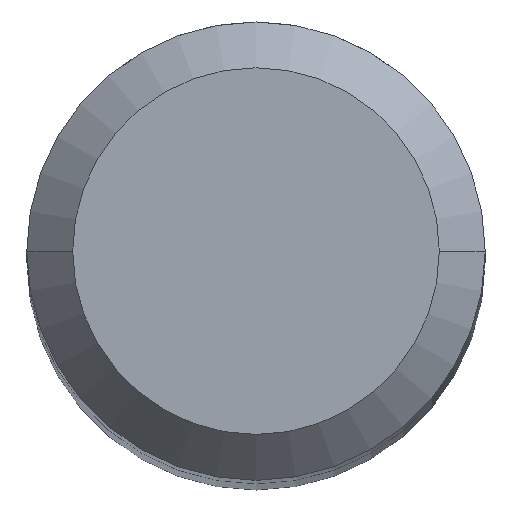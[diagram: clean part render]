
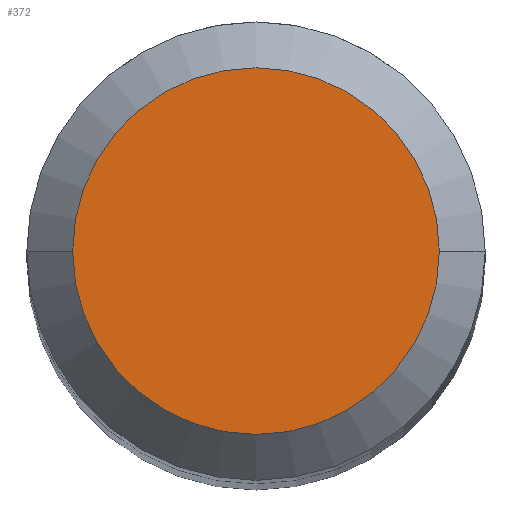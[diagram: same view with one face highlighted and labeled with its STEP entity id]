
A CAD part, top view. The second image highlights one B-rep face of the part: STEP entity #372.
In plain terms, the highlighted planar face has unit normal (0, 0, 1).
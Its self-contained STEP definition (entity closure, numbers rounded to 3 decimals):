
#2 = VERTEX_POINT ( 'NONE', #324 ) ;
#31 = CARTESIAN_POINT ( 'NONE',  ( 0., 0., 0. ) ) ;
#44 = ORIENTED_EDGE ( 'NONE', *, *, #166, .F. ) ;
#45 = AXIS2_PLACEMENT_3D ( 'NONE', #129, #181, #67 ) ;
#67 = DIRECTION ( 'NONE',  ( -1., 0., 0. ) ) ;
#121 = CARTESIAN_POINT ( 'NONE',  ( 0., 7.2, 0. ) ) ;
#129 = CARTESIAN_POINT ( 'NONE',  ( 0., 0., 0. ) ) ;
#132 = EDGE_CURVE ( 'NONE', #2, #339, #363, .T. ) ;
#166 = EDGE_CURVE ( 'NONE', #339, #2, #351, .T. ) ;
#181 = DIRECTION ( 'NONE',  ( 0., 0., -1. ) ) ;
#204 = PLANE ( 'NONE',  #254 ) ;
#205 = EDGE_LOOP ( 'NONE', ( #269, #44 ) ) ;
#254 = AXIS2_PLACEMENT_3D ( 'NONE', #121, #370, #307 ) ;
#262 = DIRECTION ( 'NONE',  ( -1., 0., 0. ) ) ;
#269 = ORIENTED_EDGE ( 'NONE', *, *, #132, .F. ) ;
#307 = DIRECTION ( 'NONE',  ( 1., 0., 0. ) ) ;
#320 = AXIS2_PLACEMENT_3D ( 'NONE', #31, #439, #262 ) ;
#324 = CARTESIAN_POINT ( 'NONE',  ( -7.2, 0., 0. ) ) ;
#338 = FACE_OUTER_BOUND ( 'NONE', #205, .T. ) ;
#339 = VERTEX_POINT ( 'NONE', #417 ) ;
#351 = CIRCLE ( 'NONE', #320, 7.2 ) ;
#363 = CIRCLE ( 'NONE', #45, 7.2 ) ;
#370 = DIRECTION ( 'NONE',  ( 0., 0., 1. ) ) ;
#372 = ADVANCED_FACE ( 'NONE', ( #338 ), #204, .T. ) ;
#417 = CARTESIAN_POINT ( 'NONE',  ( 7.2, 0., 0. ) ) ;
#439 = DIRECTION ( 'NONE',  ( 0., 0., -1. ) ) ;
